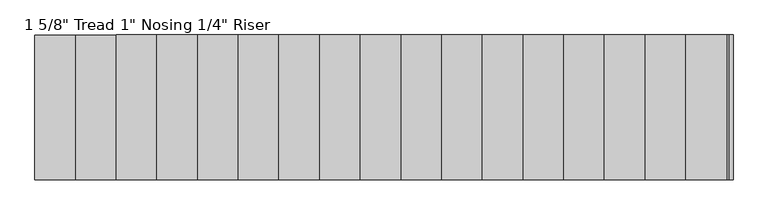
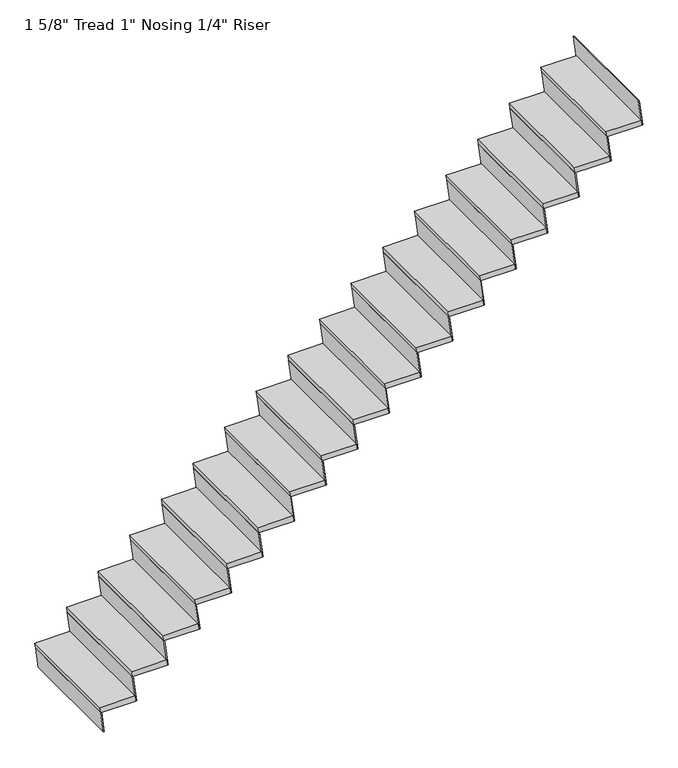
"""IFC4 building model written with IfcOpenShell, lengths in millimetres: stair flight geometry."""

from ifc_helpers import new_model, si_unit, frame, origin, place, context, project, spatial, polyline, outline, extrude, source, transform, mapped, element, save


def stair_flight_b2fd968c(model_context):
    return source(origin(), model_context, "Body", "SweptSolid", [
        extrude(outline(polyline([(3699.9333333, -15759.2535292), (3699.9333333, -16013.2535292), (3658.6583333, -16007.8698335), (3658.6583333, -15753.8698335), (3699.9333333, -15759.2535292)])), frame((0.0, -1798.6064015, 0.0), z_axis=(0.0, 1.0, 0.0), x_axis=(0.0, 0.0, 1.0)), (0.0, 0.0, 1.0), 812.8),
        extrude(outline(polyline([(3658.6583333, -16007.8698335), (3505.2, -15987.8535292), (3505.2, -15981.44974), (3658.6583333, -16001.4660443), (3658.6583333, -16007.8698335)])), frame((0.0, -1798.6064015, 0.0), z_axis=(0.0, 1.0, 0.0), x_axis=(0.0, 0.0, 1.0)), (0.0, 0.0, 1.0), 812.8),
        extrude(outline(polyline([(3894.6666667, -15530.6535292), (3894.6666667, -15784.6535292), (3853.3916667, -15779.2698335), (3853.3916667, -15525.2698335), (3894.6666667, -15530.6535292)])), frame((0.0, -1798.6064015, 0.0), z_axis=(0.0, 1.0, 0.0), x_axis=(0.0, 0.0, 1.0)), (0.0, 0.0, 1.0), 812.8),
        extrude(outline(polyline([(3853.3916667, -15779.2698335), (3658.6583333, -15753.8698335), (3658.6583333, -15747.4660443), (3853.3916667, -15772.8660443), (3853.3916667, -15779.2698335)])), frame((0.0, -1798.6064015, 0.0), z_axis=(0.0, 1.0, 0.0), x_axis=(0.0, 0.0, 1.0)), (0.0, 0.0, 1.0), 812.8),
        extrude(outline(polyline([(4089.4, -15302.0535292), (4089.4, -15556.0535292), (4048.125, -15550.6698335), (4048.125, -15296.6698335), (4089.4, -15302.0535292)])), frame((0.0, -1798.6064015, 0.0), z_axis=(0.0, 1.0, 0.0), x_axis=(0.0, 0.0, 1.0)), (0.0, 0.0, 1.0), 812.8),
        extrude(outline(polyline([(4048.125, -15550.6698335), (3853.3916667, -15525.2698335), (3853.3916667, -15518.8660443), (4048.125, -15544.2660443), (4048.125, -15550.6698335)])), frame((0.0, -1798.6064015, 0.0), z_axis=(0.0, 1.0, 0.0), x_axis=(0.0, 0.0, 1.0)), (0.0, 0.0, 1.0), 812.8),
        extrude(outline(polyline([(4284.1333333, -15073.4535292), (4284.1333333, -15327.4535292), (4242.8583333, -15322.0698335), (4242.8583333, -15068.0698335), (4284.1333333, -15073.4535292)])), frame((0.0, -1798.6064015, 0.0), z_axis=(0.0, 1.0, 0.0), x_axis=(0.0, 0.0, 1.0)), (0.0, 0.0, 1.0), 812.8),
        extrude(outline(polyline([(4242.8583333, -15322.0698335), (4048.125, -15296.6698335), (4048.125, -15290.2660443), (4242.8583333, -15315.6660443), (4242.8583333, -15322.0698335)])), frame((0.0, -1798.6064015, 0.0), z_axis=(0.0, 1.0, 0.0), x_axis=(0.0, 0.0, 1.0)), (0.0, 0.0, 1.0), 812.8),
        extrude(outline(polyline([(4478.8666667, -14844.8535292), (4478.8666667, -15098.8535292), (4437.5916667, -15093.4698335), (4437.5916667, -14839.4698335), (4478.8666667, -14844.8535292)])), frame((0.0, -1798.6064015, 0.0), z_axis=(0.0, 1.0, 0.0), x_axis=(0.0, 0.0, 1.0)), (0.0, 0.0, 1.0), 812.8),
        extrude(outline(polyline([(4437.5916667, -15093.4698335), (4242.8583333, -15068.0698335), (4242.8583333, -15061.6660443), (4437.5916667, -15087.0660443), (4437.5916667, -15093.4698335)])), frame((0.0, -1798.6064015, 0.0), z_axis=(0.0, 1.0, 0.0), x_axis=(0.0, 0.0, 1.0)), (0.0, 0.0, 1.0), 812.8),
        extrude(outline(polyline([(4673.6, -14616.2535292), (4673.6, -14870.2535292), (4632.325, -14864.8698335), (4632.325, -14610.8698335), (4673.6, -14616.2535292)])), frame((0.0, -1798.6064015, 0.0), z_axis=(0.0, 1.0, 0.0), x_axis=(0.0, 0.0, 1.0)), (0.0, 0.0, 1.0), 812.8),
        extrude(outline(polyline([(4632.325, -14864.8698335), (4437.5916667, -14839.4698335), (4437.5916667, -14833.0660443), (4632.325, -14858.4660443), (4632.325, -14864.8698335)])), frame((0.0, -1798.6064015, 0.0), z_axis=(0.0, 1.0, 0.0), x_axis=(0.0, 0.0, 1.0)), (0.0, 0.0, 1.0), 812.8),
        extrude(outline(polyline([(4868.3333333, -14387.6535292), (4868.3333333, -14641.6535292), (4827.0583333, -14636.2698335), (4827.0583333, -14382.2698335), (4868.3333333, -14387.6535292)])), frame((0.0, -1798.6064015, 0.0), z_axis=(0.0, 1.0, 0.0), x_axis=(0.0, 0.0, 1.0)), (0.0, 0.0, 1.0), 812.8),
        extrude(outline(polyline([(4827.0583333, -14636.2698335), (4632.325, -14610.8698335), (4632.325, -14604.4660443), (4827.0583333, -14629.8660443), (4827.0583333, -14636.2698335)])), frame((0.0, -1798.6064015, 0.0), z_axis=(0.0, 1.0, 0.0), x_axis=(0.0, 0.0, 1.0)), (0.0, 0.0, 1.0), 812.8),
        extrude(outline(polyline([(5063.0666667, -14159.0535292), (5063.0666667, -14413.0535292), (5021.7916667, -14407.6698335), (5021.7916667, -14153.6698335), (5063.0666667, -14159.0535292)])), frame((0.0, -1798.6064015, 0.0), z_axis=(0.0, 1.0, 0.0), x_axis=(0.0, 0.0, 1.0)), (0.0, 0.0, 1.0), 812.8),
        extrude(outline(polyline([(5021.7916667, -14407.6698335), (4827.0583333, -14382.2698335), (4827.0583333, -14375.8660443), (5021.7916667, -14401.2660443), (5021.7916667, -14407.6698335)])), frame((0.0, -1798.6064015, 0.0), z_axis=(0.0, 1.0, 0.0), x_axis=(0.0, 0.0, 1.0)), (0.0, 0.0, 1.0), 812.8),
        extrude(outline(polyline([(5257.8, -13930.4535292), (5257.8, -14184.4535292), (5216.525, -14179.0698335), (5216.525, -13925.0698335), (5257.8, -13930.4535292)])), frame((0.0, -1798.6064015, 0.0), z_axis=(0.0, 1.0, 0.0), x_axis=(0.0, 0.0, 1.0)), (0.0, 0.0, 1.0), 812.8),
        extrude(outline(polyline([(5216.525, -14179.0698335), (5021.7916667, -14153.6698335), (5021.7916667, -14147.2660443), (5216.525, -14172.6660443), (5216.525, -14179.0698335)])), frame((0.0, -1798.6064015, 0.0), z_axis=(0.0, 1.0, 0.0), x_axis=(0.0, 0.0, 1.0)), (0.0, 0.0, 1.0), 812.8),
        extrude(outline(polyline([(5452.5333333, -13701.8535292), (5452.5333333, -13955.8535292), (5411.2583333, -13950.4698335), (5411.2583333, -13696.4698335), (5452.5333333, -13701.8535292)])), frame((0.0, -1798.6064015, 0.0), z_axis=(0.0, 1.0, 0.0), x_axis=(0.0, 0.0, 1.0)), (0.0, 0.0, 1.0), 812.8),
        extrude(outline(polyline([(5411.2583333, -13950.4698335), (5216.525, -13925.0698335), (5216.525, -13918.6660443), (5411.2583333, -13944.0660443), (5411.2583333, -13950.4698335)])), frame((0.0, -1798.6064015, 0.0), z_axis=(0.0, 1.0, 0.0), x_axis=(0.0, 0.0, 1.0)), (0.0, 0.0, 1.0), 812.8),
        extrude(outline(polyline([(5647.2666667, -13473.2535292), (5647.2666667, -13727.2535292), (5605.9916667, -13721.8698335), (5605.9916667, -13467.8698335), (5647.2666667, -13473.2535292)])), frame((0.0, -1798.6064015, 0.0), z_axis=(0.0, 1.0, 0.0), x_axis=(0.0, 0.0, 1.0)), (0.0, 0.0, 1.0), 812.8),
        extrude(outline(polyline([(5605.9916667, -13721.8698335), (5411.2583333, -13696.4698335), (5411.2583333, -13690.0660443), (5605.9916667, -13715.4660443), (5605.9916667, -13721.8698335)])), frame((0.0, -1798.6064015, 0.0), z_axis=(0.0, 1.0, 0.0), x_axis=(0.0, 0.0, 1.0)), (0.0, 0.0, 1.0), 812.8),
        extrude(outline(polyline([(5842.0, -13244.6535292), (5842.0, -13498.6535292), (5800.725, -13493.2698335), (5800.725, -13239.2698335), (5842.0, -13244.6535292)])), frame((0.0, -1798.6064015, 0.0), z_axis=(0.0, 1.0, 0.0), x_axis=(0.0, 0.0, 1.0)), (0.0, 0.0, 1.0), 812.8),
        extrude(outline(polyline([(5800.725, -13493.2698335), (5605.9916667, -13467.8698335), (5605.9916667, -13461.4660443), (5800.725, -13486.8660443), (5800.725, -13493.2698335)])), frame((0.0, -1798.6064015, 0.0), z_axis=(0.0, 1.0, 0.0), x_axis=(0.0, 0.0, 1.0)), (0.0, 0.0, 1.0), 812.8),
        extrude(outline(polyline([(6036.7333333, -13016.0535292), (6036.7333333, -13270.0535292), (5995.4583333, -13264.6698335), (5995.4583333, -13010.6698335), (6036.7333333, -13016.0535292)])), frame((0.0, -1798.6064015, 0.0), z_axis=(0.0, 1.0, 0.0), x_axis=(0.0, 0.0, 1.0)), (0.0, 0.0, 1.0), 812.8),
        extrude(outline(polyline([(5995.4583333, -13264.6698335), (5800.725, -13239.2698335), (5800.725, -13232.8660443), (5995.4583333, -13258.2660443), (5995.4583333, -13264.6698335)])), frame((0.0, -1798.6064015, 0.0), z_axis=(0.0, 1.0, 0.0), x_axis=(0.0, 0.0, 1.0)), (0.0, 0.0, 1.0), 812.8),
        extrude(outline(polyline([(6231.4666667, -12787.4535292), (6231.4666667, -13041.4535292), (6190.1916667, -13036.0698335), (6190.1916667, -12782.0698335), (6231.4666667, -12787.4535292)])), frame((0.0, -1798.6064015, 0.0), z_axis=(0.0, 1.0, 0.0), x_axis=(0.0, 0.0, 1.0)), (0.0, 0.0, 1.0), 812.8),
        extrude(outline(polyline([(6190.1916667, -13036.0698335), (5995.4583333, -13010.6698335), (5995.4583333, -13004.2660443), (6190.1916667, -13029.6660443), (6190.1916667, -13036.0698335)])), frame((0.0, -1798.6064015, 0.0), z_axis=(0.0, 1.0, 0.0), x_axis=(0.0, 0.0, 1.0)), (0.0, 0.0, 1.0), 812.8),
        extrude(outline(polyline([(6426.2, -12558.8535292), (6426.2, -12812.8535292), (6384.925, -12807.4698335), (6384.925, -12553.4698335), (6426.2, -12558.8535292)])), frame((0.0, -1798.6064015, 0.0), z_axis=(0.0, 1.0, 0.0), x_axis=(0.0, 0.0, 1.0)), (0.0, 0.0, 1.0), 812.8),
        extrude(outline(polyline([(6384.925, -12807.4698335), (6190.1916667, -12782.0698335), (6190.1916667, -12775.6660443), (6384.925, -12801.0660443), (6384.925, -12807.4698335)])), frame((0.0, -1798.6064015, 0.0), z_axis=(0.0, 1.0, 0.0), x_axis=(0.0, 0.0, 1.0)), (0.0, 0.0, 1.0), 812.8),
        extrude(outline(polyline([(6620.9333333, -12330.2535292), (6620.9333333, -12584.2535292), (6579.6583333, -12578.8698335), (6579.6583333, -12324.8698335), (6620.9333333, -12330.2535292)])), frame((0.0, -1798.6064015, 0.0), z_axis=(0.0, 1.0, 0.0), x_axis=(0.0, 0.0, 1.0)), (0.0, 0.0, 1.0), 812.8),
        extrude(outline(polyline([(6579.6583333, -12578.8698335), (6384.925, -12553.4698335), (6384.925, -12547.0660443), (6579.6583333, -12572.4660443), (6579.6583333, -12578.8698335)])), frame((0.0, -1798.6064015, 0.0), z_axis=(0.0, 1.0, 0.0), x_axis=(0.0, 0.0, 1.0)), (0.0, 0.0, 1.0), 812.8),
        extrude(outline(polyline([(6815.6666667, -12101.6535292), (6815.6666667, -12355.6535292), (6774.3916667, -12350.2698335), (6774.3916667, -12096.2698335), (6815.6666667, -12101.6535292)])), frame((0.0, -1798.6064015, 0.0), z_axis=(0.0, 1.0, 0.0), x_axis=(0.0, 0.0, 1.0)), (0.0, 0.0, 1.0), 812.8),
        extrude(outline(polyline([(6774.3916667, -12350.2698335), (6579.6583333, -12324.8698335), (6579.6583333, -12318.4660443), (6774.3916667, -12343.8660443), (6774.3916667, -12350.2698335)])), frame((0.0, -1798.6064015, 0.0), z_axis=(0.0, 1.0, 0.0), x_axis=(0.0, 0.0, 1.0)), (0.0, 0.0, 1.0), 812.8),
        extrude(outline(polyline([(6969.125, -12121.6698335), (6774.3916667, -12096.2698335), (6774.3916667, -12089.8660443), (6969.125, -12115.2660443), (6969.125, -12121.6698335)])), frame((0.0, -1798.6064015, 0.0), z_axis=(0.0, 1.0, 0.0), x_axis=(0.0, 0.0, 1.0)), (0.0, 0.0, 1.0), 812.8),
    ])


if __name__ == "__main__":
    model = new_model("IFC4")
    model_context = context("Model", 3, world=origin())
    ifc_project = project(units=[si_unit("LENGTHUNIT", "METRE", prefix="MILLI")], contexts=[model_context])
    site = spatial("IfcSite", under=ifc_project)
    building = spatial("IfcBuilding", under=site)
    placement = place(None, origin())
    stair_flight_shape = stair_flight_b2fd968c(model_context)
    element("IfcStairFlight", 1, ObjectType="1 5/8\" Tread 1\" Nosing 1/4\" Riser", at=placement, inside=building, context=model_context, shape_type="MappedRepresentation", body=[
        mapped(stair_flight_shape, transform((0.0, 0.0, 0.0), x_axis=(1.0, 0.0, 0.0), y_axis=(0.0, 1.0, 0.0), z_axis=(0.0, 0.0, 1.0))),
    ])
    save(model, "model.ifc")
